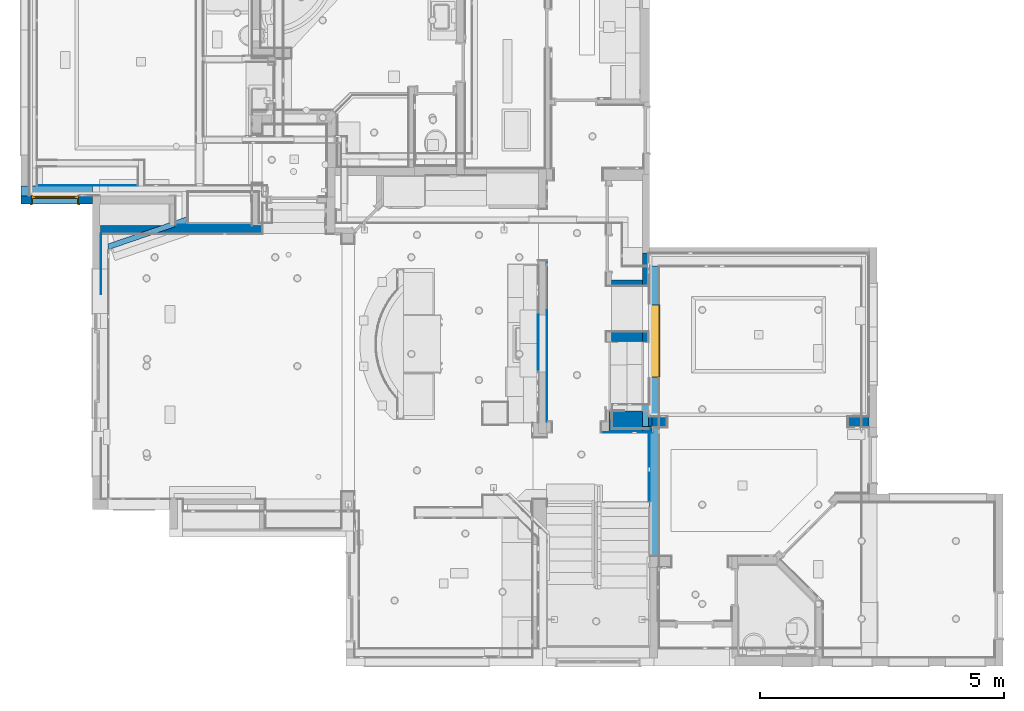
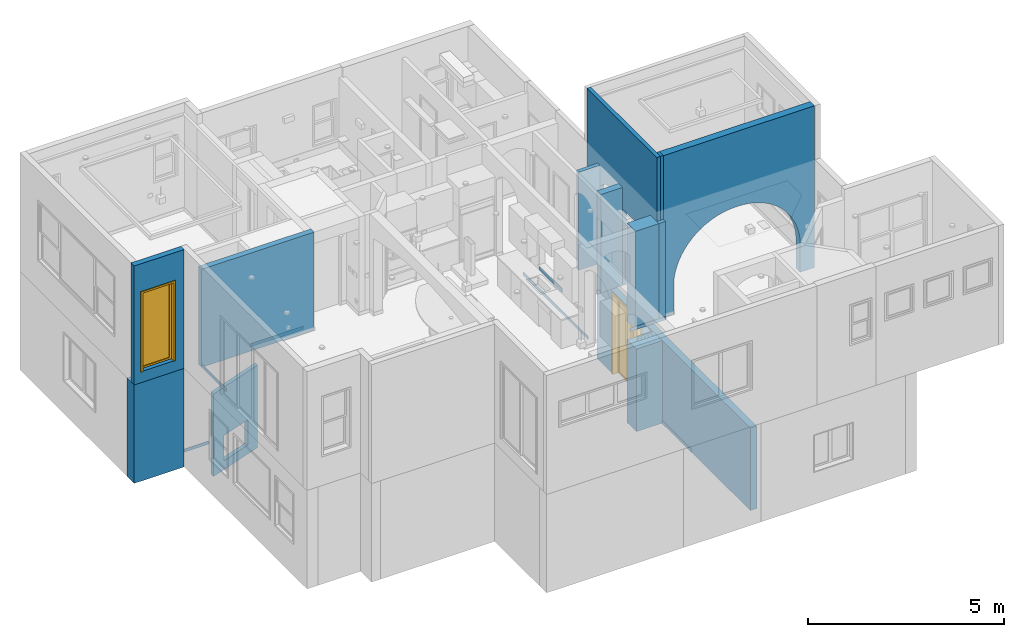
# One storey, part 6 of 60: 20 walls, 2 doors, 6 openings.
"""IFC2X3 building model written with IfcOpenShell, lengths in feet."""

from ifc_helpers import new_model, entity, si_unit, converted_unit, direction, frame, frame_2d, origin, origin_2d_with_axis, place, context, subcontext, project, spatial, polyline, circle_curve, parameter, trimmed, segment, composite_curve, rectangle, outline, extrude, clip, bounded_halfspace, source, transform, mapped, material, material_list, layer, layer_set, layer_usage, type_object, type_shapes, element, fill, save


model = new_model("IFC2X3")

# Units and contexts
model_context = context("Model", 3, precision=0.0001, world=origin(), true_north=direction((6.123031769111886e-17, 1.0)))
plan_context = context("Plan", 3, precision=0.0001, world=origin(), true_north=direction((6.123031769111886e-17, 1.0)))
body_context = subcontext(model_context, "Body", "Model", "MODEL_VIEW")
ifc_project = project(units=[converted_unit("LENGTHUNIT", "FOOT", entity("IfcLengthMeasure", 0.3048), si_unit("LENGTHUNIT", "METRE"), dimensions=[1, 0, 0, 0, 0, 0, 0]), converted_unit("AREAUNIT", "SQUARE FOOT", entity("IfcAreaMeasure", 0.09290304), si_unit("AREAUNIT", "SQUARE_METRE"), dimensions=[2, 0, 0, 0, 0, 0, 0]), converted_unit("PLANEANGLEUNIT", "DEGREE", entity("IfcPlaneAngleMeasure", 0.017453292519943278), si_unit("PLANEANGLEUNIT", "RADIAN"), dimensions=[0, 0, 0, 0, 0, 0, 0])], contexts=[model_context, plan_context])

# Site, building, storey
site_placement = place(None, origin())
site = spatial("IfcSite", under=ifc_project, at=site_placement, Name="Default", CompositionType="ELEMENT")
building_placement = place(site_placement, origin())
building = spatial("IfcBuilding", under=site, at=building_placement, CompositionType="ELEMENT")
storey_placement = place(building_placement, origin())
storey = spatial("IfcBuildingStorey", under=building, at=storey_placement, Name="First floor", CompositionType="ELEMENT", Elevation=0.0)

# Wall, opening, door
ifc_material_1 = material(Name="Default New Material")
ifc_layer_1 = layer(ifc_material_1, 0.5416666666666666)
ifc_layer_set_1 = layer_set([ifc_layer_1], Name="Basic Wall:Wall_6.5\"")
ifc_layer_usage_1 = layer_usage(ifc_layer_set_1, "AXIS2", "NEGATIVE", 0.2708333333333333)
wall_type_1 = type_object("IfcWallType", Name="Basic Wall:Wall_6.5\"", PredefinedType="STANDARD", material=ifc_layer_set_1)
wall_1_placement = place(storey_placement, frame((-17.041666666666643, 31.31249999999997, 9.541666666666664), z_axis=(0.0, 0.0, 1.0), x_axis=(-1.0, 0.0, 0.0)))
wall_1 = element("IfcWallStandardCase", 1, at=wall_1_placement, inside=storey, type_object=wall_type_1, material=ifc_layer_usage_1, Name="Basic Wall:Wall_6.5\"", ObjectType="Basic Wall:Wall_6.5\"", context=body_context, shape_type="SweptSolid", body=[
    extrude(rectangle(XDim=4.812500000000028, YDim=0.5416666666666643, at=frame_2d((2.406250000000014, -8.881784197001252e-16), x_axis=(-1.0, 0.0))), origin(), (0.0, 0.0, 1.0), 12.125),
])
opening_1_placement = place(wall_1_placement, frame((4.104166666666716, 0.2708333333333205, 1.1250000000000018)))
opening_1 = element("IfcOpeningElement", 2, at=opening_1_placement, cuts=wall_1, Name="C_Single Door Glass:3'-0\" X 8'-0\":1", ObjectType="Opening", context=body_context, shape_type="SweptSolid", body=[
    extrude(rectangle(XDim=3.166666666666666, YDim=8.083333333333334, at=frame_2d((4.041666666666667, 1.583333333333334), x_axis=(0.0, 1.0))), frame((0.0, 0.0, 0.0), z_axis=(0.0, -1.0, 0.0), x_axis=(0.0, 0.0, 1.0)), (0.0, 0.0, 1.0), 0.5416666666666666),
])
ifc_material_2 = material(Name="Glass")
ifc_material_list_1 = material_list([ifc_material_2, ifc_material_1])
door_style_1 = type_object("IfcDoorStyle", Name="C_Single Door Glass:3'-0\" X 8'-0\"", ConstructionType="NOTDEFINED", OperationType="SINGLE_SWING_RIGHT", ParameterTakesPrecedence=False, Sizeable=False, material=ifc_material_list_1)
shared_shape_1 = source(origin(), body_context, "Body", "SweptSolid", [
    extrude(rectangle(XDim=2.6666666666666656, YDim=0.04166666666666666, at=frame_2d((0.0, 1.3877787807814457e-17), x_axis=(1.0, 0.0))), frame((1.5833333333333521, 0.08333333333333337, 0.16666666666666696), z_axis=(0.0, 0.0, 1.0), x_axis=(-1.0, 0.0, 0.0)), (0.0, 0.0, 1.0), 7.666666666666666),
    extrude(outline(polyline([(-4.0, -1.4999999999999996), (4.0, -1.4999999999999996), (4.0, 1.4999999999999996), (-4.0, 1.4999999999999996), (-4.0, -1.4999999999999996)]), holes=[polyline([(-3.833333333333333, 1.3333333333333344), (3.833333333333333, 1.3333333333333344), (3.833333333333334, -1.3333333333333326), (-3.833333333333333, -1.3333333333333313), (-3.833333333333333, 1.3333333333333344)])]), frame((1.5833333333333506, 0.16666666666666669, 4.0), z_axis=(0.0, -1.0, 0.0), x_axis=(0.0, 0.0, -1.0)), (0.0, 0.0, 1.0), 0.16666666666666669),
    extrude(outline(polyline([(-3.958333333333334, 1.4999999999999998), (4.041666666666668, 1.4999999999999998), (4.041666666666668, 1.6666666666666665), (-4.125000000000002, 1.6666666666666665), (-4.125000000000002, -1.6666666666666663), (4.041666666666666, -1.6666666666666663), (4.041666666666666, -1.4999999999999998), (-3.958333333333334, -1.4999999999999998), (-3.958333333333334, 1.4999999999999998)])), frame((1.5833333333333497, 0.0, 4.041666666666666), z_axis=(0.0, -1.0, 0.0), x_axis=(0.0, 0.0, -1.0)), (0.0, 0.0, 1.0), 0.0625),
    extrude(outline(polyline([(-3.958333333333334, 1.4999999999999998), (4.041666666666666, 1.4999999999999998), (4.041666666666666, 1.6666666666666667), (-4.125, 1.6666666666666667), (-4.125, -1.6666666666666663), (4.041666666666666, -1.6666666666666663), (4.041666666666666, -1.5000000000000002), (-3.958333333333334, -1.5000000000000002), (-3.958333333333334, 1.4999999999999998)])), frame((1.5833333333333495, 0.6041666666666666, 4.041666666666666), z_axis=(0.0, -1.0, 0.0), x_axis=(0.0, 0.0, -1.0)), (0.0, 0.0, 1.0), 0.0625),
    extrude(outline(polyline([(1.4999999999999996, -4.020833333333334), (1.5833333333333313, -4.020833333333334), (1.5833333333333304, 4.062499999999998), (-1.5833333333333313, 4.0625), (-1.5833333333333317, -4.020833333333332), (-1.5, -4.020833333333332), (-1.5, 3.979166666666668), (1.4999999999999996, 3.979166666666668), (1.4999999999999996, -4.020833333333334)])), frame((1.58333333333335, 0.5416666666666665, 4.020833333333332), z_axis=(0.0, -1.0, 0.0), x_axis=(1.0, 0.0, 0.0)), (0.0, 0.0, 1.0), 0.5416666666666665),
])
type_shapes(door_style_1, [shared_shape_1])
door_1_placement = place(opening_1_placement, frame((-3.1666666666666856, -0.5416666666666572, 0.0)))
door_1 = element("IfcDoor", 3, at=door_1_placement, inside=storey, type_object=door_style_1, material=ifc_material_list_1, Name="C_Single Door Glass:3'-0\" X 8'-0\"", ObjectType="C_Single Door Glass:3'-0\" X 8'-0\"", OverallHeight=8.083333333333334, OverallWidth=3.166666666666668, context=body_context, shape_type="MappedRepresentation", body=[
    mapped(shared_shape_1, transform((0.0, 0.0, 0.0), scale=1.0)),
])
fill(opening_1, door_1)

# Walls
ifc_layer_usage_2 = layer_usage(ifc_layer_set_1, "AXIS2", "NEGATIVE", 0.2708333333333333)
wall_2_placement = place(storey_placement, frame((-16.49999999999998, 29.312499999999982, 10.666666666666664)))
element("IfcWallStandardCase", 4, at=wall_2_placement, inside=storey, type_object=wall_type_1, material=ifc_layer_usage_2, Name="Basic Wall:Wall_6.5\"", ObjectType="Basic Wall:Wall_6.5\"", context=body_context, shape_type="SweptSolid", body=[
    extrude(rectangle(XDim=10.854166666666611, YDim=0.5416666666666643, at=frame_2d((5.4270833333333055, 0.0), x_axis=(-1.0, 0.0))), origin(), (0.0, 0.0, 1.0), 10.0),
])
ifc_layer_2 = layer(ifc_material_1, 0.6666666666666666)
ifc_layer_set_2 = layer_set([ifc_layer_2], Name="Basic Wall:Wall_8\"")
ifc_layer_usage_3 = layer_usage(ifc_layer_set_2, "AXIS2", "NEGATIVE", 0.33333333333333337)
wall_type_2 = type_object("IfcWallType", Name="Basic Wall:Wall_8\"", PredefinedType="STANDARD", material=ifc_layer_set_2)
wall_3_placement = place(storey_placement, frame((17.833333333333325, 22.124654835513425, 10.666666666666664)))
element("IfcWallStandardCase", 5, at=wall_3_placement, inside=storey, type_object=wall_type_2, material=ifc_layer_usage_3, Name="Basic Wall:Wall_8\"", ObjectType="Basic Wall:Wall_8\"", context=body_context, shape_type="SweptSolid", body=[
    extrude(rectangle(XDim=2.0833333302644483, YDim=0.6666666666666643, at=frame_2d((1.0416666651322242, 0.0), x_axis=(-1.0, 0.0))), origin(), (0.0, 0.0, 1.0), 10.0),
])
ifc_layer_usage_4 = layer_usage(ifc_layer_set_2, "AXIS2", "NEGATIVE", 0.33333333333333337)
wall_4_placement = place(storey_placement, frame((20.291666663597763, 16.416321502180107, 10.666666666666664)))
element("IfcWallStandardCase", 6, at=wall_4_placement, inside=storey, type_object=wall_type_2, material=ifc_layer_usage_4, Name="Basic Wall:Wall_8\"", ObjectType="Basic Wall:Wall_8\"", context=body_context, shape_type="SweptSolid", body=[
    extrude(rectangle(XDim=0.2500000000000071, YDim=0.6666666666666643, at=frame_2d((0.12500000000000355, 0.0), x_axis=(-1.0, 0.0))), origin(), (0.0, 0.0, 1.0), 16.5),
])

# Wall, opening
ifc_layer_3 = layer(ifc_material_1, 0.7083333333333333)
ifc_layer_set_3 = layer_set([ifc_layer_3], Name="Basic Wall:Wall_8.5\"")
ifc_layer_usage_5 = layer_usage(ifc_layer_set_3, "AXIS2", "NEGATIVE", 0.35416666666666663)
wall_type_3 = type_object("IfcWallType", Name="Basic Wall:Wall_8.5\"", PredefinedType="STANDARD", material=ifc_layer_set_3)
wall_5_placement = place(storey_placement, frame((20.541666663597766, 16.395833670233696, 10.666666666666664)))
wall_5 = element("IfcWallStandardCase", 7, at=wall_5_placement, inside=storey, type_object=wall_type_3, material=ifc_layer_usage_5, Name="Basic Wall:Wall_8.5\"", ObjectType="Basic Wall:Wall_8.5\"", context=body_context, shape_type="SweptSolid", body=[
    extrude(rectangle(XDim=14.583333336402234, YDim=0.7083333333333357, at=frame_2d((7.291666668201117, -8.049116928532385e-16), x_axis=(-1.0, 0.0))), origin(), (0.0, 0.0, 1.0), 16.499999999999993),
])
opening_2_placement = place(wall_5_placement, frame((-20.541666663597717, -16.39583367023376, -10.666666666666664)))
element("IfcOpeningElement", 8, at=opening_2_placement, cuts=wall_5, Name="Basic Wall:Wall_8.5\"", ObjectType="Opening", context=body_context, shape_type="SweptSolid", body=[
    extrude(outline(composite_curve([segment(polyline([(-0.23333333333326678, -6.083333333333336), (3.099999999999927, -6.083333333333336)]), True, "CONTINUOUS"), segment(polyline([(3.099999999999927, -6.083333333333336), (3.099999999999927, 6.083333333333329)]), True, "CONTINUOUS"), segment(polyline([(3.099999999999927, 6.083333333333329), (-0.23333333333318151, 6.083333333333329)]), True, "CONTINUOUS"), segment(trimmed(circle_curve(frame_2d((0.265763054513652, 0.10412746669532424), x_axis=(0.0, 1.0)), 6.0), [parameter(4.771532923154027)], [parameter(90.99439398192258)], True, "PARAMETER"), True, "CONTINUOUS"), segment(trimmed(circle_curve(frame_2d((0.265763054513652, -0.10412746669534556), x_axis=(0.0, -1.0)), 6.0), [parameter(269.00560601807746)], [parameter(355.2284670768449)], True, "PARAMETER"), True, "CONTINUOUS")], self_intersect=False)), frame((27.625501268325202, 16.041667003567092, 13.766666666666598), z_axis=(0.0, 1.0, 0.0), x_axis=(0.0, 0.0, -1.0)), (0.0, 0.0, 1.0), 0.7083333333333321),
])

# Wall, opening, door
ifc_layer_4 = layer(ifc_material_1, 0.625)
ifc_layer_set_4 = layer_set([ifc_layer_4], Name="Basic Wall:Wall_7.5\"")
ifc_layer_usage_6 = layer_usage(ifc_layer_set_4, "AXIS2", "NEGATIVE", 0.31250000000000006)
wall_type_4 = type_object("IfcWallType", Name="Basic Wall:Wall_7.5\"", PredefinedType="STANDARD", material=ifc_layer_set_4)
wall_6_placement = place(storey_placement, frame((20.687499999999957, 1.2499999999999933, 0.0), z_axis=(0.0, 0.0, 1.0), x_axis=(0.0, 1.0, 0.0)))
wall_6 = element("IfcWallStandardCase", 9, at=wall_6_placement, inside=storey, type_object=wall_type_4, material=ifc_layer_usage_6, Name="Basic Wall:Wall_7.5\"", ObjectType="Basic Wall:Wall_7.5\"", context=body_context, shape_type="SweptSolid", body=[
    extrude(rectangle(XDim=25.625000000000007, YDim=0.625, at=frame_2d((12.812500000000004, -7.216449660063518e-16), x_axis=(1.0, 0.0))), origin(), (0.0, 0.0, 1.0), 8.416666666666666),
])
opening_3_placement = place(wall_6_placement, frame((23.0, 0.3124999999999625, 0.0)))
opening_3 = element("IfcOpeningElement", 10, at=opening_3_placement, cuts=wall_6, Name="C_Double Door Glass:4'-8\" X 8'-2\":1", ObjectType="Opening", context=body_context, shape_type="SweptSolid", body=[
    extrude(rectangle(XDim=8.25, YDim=4.833333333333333, at=frame_2d((4.125, 2.416666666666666), x_axis=(-1.0, 0.0))), frame((0.0, 0.0, 0.0), z_axis=(0.0, -1.0, 0.0), x_axis=(0.0, 0.0, 1.0)), (0.0, 0.0, 1.0), 0.6250000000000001),
])
ifc_material_list_2 = material_list([ifc_material_1, ifc_material_2])
door_style_2 = type_object("IfcDoorStyle", Name="C_Double Door Glass:4'-8\" X 8'-2\"", ConstructionType="NOTDEFINED", OperationType="DOUBLE_DOOR_SINGLE_SWING_OPPOSITE_LEFT", ParameterTakesPrecedence=False, Sizeable=False, material=ifc_material_list_2)
shared_shape_2 = source(origin(), body_context, "Body", "SweptSolid", [
    extrude(rectangle(XDim=0.04166666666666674, YDim=1.9999999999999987, at=origin_2d_with_axis()), frame((1.250000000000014, 0.08333333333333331, 2.7569444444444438), z_axis=(0.0, 0.0, 1.0), x_axis=(0.0, -1.0, 0.0)), (0.0, 0.0, 1.0), 0.04166666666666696),
    extrude(rectangle(XDim=0.04166666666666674, YDim=1.9999999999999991, at=origin_2d_with_axis()), frame((1.2500000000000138, 0.08333333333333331, 5.3680555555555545), z_axis=(0.0, 0.0, 1.0), x_axis=(0.0, -1.0, 0.0)), (0.0, 0.0, 1.0), 0.041666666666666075),
    extrude(rectangle(XDim=0.04166666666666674, YDim=0.04166666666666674, at=frame_2d((0.0, -5.551115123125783e-17), x_axis=(1.0, 0.0))), frame((1.5833333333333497, 0.08333333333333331, 0.16666666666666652), z_axis=(0.0, 0.0, 1.0), x_axis=(0.0, -1.0, 0.0)), (0.0, 0.0, 1.0), 7.833333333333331),
    extrude(rectangle(XDim=0.04166666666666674, YDim=0.04166666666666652, at=frame_2d((0.0, 2.220446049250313e-16), x_axis=(1.0, 0.0))), frame((0.916666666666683, 0.08333333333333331, 0.16666666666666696), z_axis=(0.0, 0.0, 1.0), x_axis=(0.0, -1.0, 0.0)), (0.0, 0.0, 1.0), 7.833333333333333),
    extrude(rectangle(XDim=0.04166666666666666, YDim=1.9999999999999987, at=frame_2d((-1.3877787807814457e-17, 0.0), x_axis=(1.0, 0.0))), frame((1.250000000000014, 0.08333333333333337, 0.16666666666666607), z_axis=(0.0, 0.0, 1.0), x_axis=(0.0, -1.0, 0.0)), (0.0, 0.0, 1.0), 7.833333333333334),
    extrude(outline(polyline([(-1.166666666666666, -4.083333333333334), (1.166666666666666, -4.083333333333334), (1.166666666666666, 4.083333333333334), (-1.166666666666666, 4.083333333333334), (-1.166666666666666, -4.083333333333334)]), holes=[polyline([(1.0, -3.916666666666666), (-1.0, -3.916666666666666), (-1.0, 3.916666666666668), (1.0, 3.916666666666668), (1.0, -3.916666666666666)])]), frame((1.2500000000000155, 0.16666666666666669, 4.083333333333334), z_axis=(0.0, -1.0, 0.0), x_axis=(-1.0, 0.0, 0.0)), (0.0, 0.0, 1.0), 0.16666666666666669),
    extrude(rectangle(XDim=1.9999999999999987, YDim=0.04166666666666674, at=origin_2d_with_axis()), frame((3.5833333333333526, 0.08333333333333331, 2.7569444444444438), z_axis=(0.0, 0.0, 1.0), x_axis=(-1.0, 0.0, 0.0)), (0.0, 0.0, 1.0), 0.04166666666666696),
    extrude(rectangle(XDim=1.9999999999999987, YDim=0.04166666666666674, at=origin_2d_with_axis()), frame((3.5833333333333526, 0.08333333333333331, 5.3680555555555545), z_axis=(0.0, 0.0, 1.0), x_axis=(-1.0, 0.0, 0.0)), (0.0, 0.0, 1.0), 0.041666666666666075),
    extrude(rectangle(XDim=0.04166666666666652, YDim=0.04166666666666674, at=frame_2d((5.551115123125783e-17, 0.0), x_axis=(1.0, 0.0))), frame((3.250000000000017, 0.08333333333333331, 0.16666666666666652), z_axis=(0.0, 0.0, 1.0), x_axis=(-1.0, 0.0, 0.0)), (0.0, 0.0, 1.0), 7.833333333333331),
    extrude(rectangle(XDim=0.04166666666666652, YDim=0.04166666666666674, at=frame_2d((-2.220446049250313e-16, 0.0), x_axis=(1.0, 0.0))), frame((3.916666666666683, 0.08333333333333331, 0.16666666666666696), z_axis=(0.0, 0.0, 1.0), x_axis=(-1.0, 0.0, 0.0)), (0.0, 0.0, 1.0), 7.833333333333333),
    extrude(rectangle(XDim=1.9999999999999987, YDim=0.04166666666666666, at=frame_2d((0.0, -1.3877787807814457e-17), x_axis=(1.0, 0.0))), frame((3.5833333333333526, 0.08333333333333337, 0.16666666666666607), z_axis=(0.0, 0.0, 1.0), x_axis=(-1.0, 0.0, 0.0)), (0.0, 0.0, 1.0), 7.833333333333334),
    extrude(outline(polyline([(-4.083333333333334, -1.166666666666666), (4.083333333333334, -1.166666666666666), (4.083333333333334, 1.166666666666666), (-4.083333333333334, 1.166666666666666), (-4.083333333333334, -1.166666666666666)]), holes=[polyline([(-3.916666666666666, 1.0), (3.916666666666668, 1.0), (3.916666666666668, -1.0), (-3.916666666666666, -1.0), (-3.916666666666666, 1.0)])]), frame((3.583333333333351, 0.16666666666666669, 4.083333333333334), z_axis=(0.0, -1.0, 0.0), x_axis=(0.0, 0.0, -1.0)), (0.0, 0.0, 1.0), 0.16666666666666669),
    extrude(outline(polyline([(-4.041666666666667, 2.333333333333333), (4.125000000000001, 2.333333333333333), (4.125000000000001, 2.4999999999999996), (-4.208333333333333, 2.4999999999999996), (-4.208333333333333, -2.499999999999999), (4.124999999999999, -2.499999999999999), (4.124999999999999, -2.333333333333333), (-4.041666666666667, -2.333333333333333), (-4.041666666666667, 2.333333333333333)])), frame((2.4166666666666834, 0.0, 4.124999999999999), z_axis=(0.0, -1.0, 0.0), x_axis=(0.0, 0.0, -1.0)), (0.0, 0.0, 1.0), 0.0625),
    extrude(outline(polyline([(-4.041666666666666, 2.333333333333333), (4.125, 2.333333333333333), (4.125, 2.5), (-4.208333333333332, 2.5), (-4.208333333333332, -2.499999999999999), (4.125, -2.499999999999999), (4.125, -2.333333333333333), (-4.041666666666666, -2.333333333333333), (-4.041666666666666, 2.333333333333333)])), frame((2.416666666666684, 0.6875000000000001, 4.125), z_axis=(0.0, -1.0, 0.0), x_axis=(0.0, 0.0, -1.0)), (0.0, 0.0, 1.0), 0.0625),
    extrude(outline(polyline([(2.333333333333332, -4.104166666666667), (2.416666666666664, -4.104166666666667), (2.4166666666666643, 4.145833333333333), (-2.416666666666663, 4.145833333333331), (-2.416666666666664, -4.104166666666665), (-2.3333333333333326, -4.104166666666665), (-2.333333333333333, 4.062500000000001), (2.333333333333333, 4.062500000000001), (2.333333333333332, -4.104166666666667)])), frame((2.4166666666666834, 0.625, 4.104166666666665), z_axis=(0.0, -1.0, 0.0), x_axis=(1.0, 0.0, 0.0)), (0.0, 0.0, 1.0), 0.625),
])
type_shapes(door_style_2, [shared_shape_2])
door_2_placement = place(opening_3_placement, frame((-4.833333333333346, -0.6250000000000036, 0.0)))
door_2 = element("IfcDoor", 11, at=door_2_placement, inside=storey, type_object=door_style_2, material=ifc_material_list_2, Name="C_Double Door Glass:4'-8\" X 8'-2\"", ObjectType="C_Double Door Glass:4'-8\" X 8'-2\"", OverallHeight=8.25, OverallWidth=4.833333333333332, context=body_context, shape_type="MappedRepresentation", body=[
    mapped(shared_shape_2, transform((0.0, 0.0, 0.0), scale=1.0)),
])
fill(opening_3, door_2)

# Wall, openings
ifc_layer_5 = layer(ifc_material_1, 0.375)
ifc_layer_set_5 = layer_set([ifc_layer_5], Name="Basic Wall:Wall_4.5\"")
ifc_layer_usage_7 = layer_usage(ifc_layer_set_5, "AXIS2", "POSITIVE", -0.1875)
wall_type_5 = type_object("IfcWallType", Name="Basic Wall:Wall_4.5\"", PredefinedType="STANDARD", material=ifc_layer_set_5)
wall_7_placement = place(storey_placement, frame((20.104166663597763, 16.08298816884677, 10.666666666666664), z_axis=(0.0, 0.0, 1.0), x_axis=(0.0, 1.0, 0.0)))
wall_7 = element("IfcWallStandardCase", 12, at=wall_7_placement, inside=storey, type_object=wall_type_5, material=ifc_layer_usage_7, Name="Basic Wall:Wall_4.5\"", ObjectType="Basic Wall:Wall_4.5\"", context=body_context, shape_type="SweptSolid", body=[
    extrude(rectangle(XDim=11.667011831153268, YDim=0.375, at=frame_2d((5.833505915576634, -2.7755575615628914e-17), x_axis=(-1.0, 0.0))), origin(), (0.0, 0.0, 1.0), 16.499999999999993),
])
opening_4_placement = place(wall_7_placement, frame((-16.082988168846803, 20.104166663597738, -10.666666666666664)))
element("IfcOpeningElement", 13, at=opening_4_placement, cuts=wall_7, Name="Basic Wall:Wall_4.5\"", ObjectType="Opening", context=body_context, shape_type="SweptSolid", body=[
    extrude(rectangle(XDim=7.8333333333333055, YDim=4.6666666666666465, at=frame_2d((-1.7763568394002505e-15, -8.881784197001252e-16), x_axis=(0.0, 1.0))), frame((19.457988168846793, -20.29166666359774, 14.583333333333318), z_axis=(0.0, 1.0, 0.0), x_axis=(1.0, 0.0, 0.0)), (0.0, 0.0, 1.0), 0.375),
])
opening_5_placement = place(wall_7_placement, frame((-16.082988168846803, 20.104166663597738, -10.666666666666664)))
element("IfcOpeningElement", 14, at=opening_5_placement, cuts=wall_7, Name="Basic Wall:Wall_4.5\"", ObjectType="Opening", context=body_context, shape_type="SweptSolid", body=[
    extrude(outline(composite_curve([segment(trimmed(circle_curve(frame_2d((0.0, 2.9072916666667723), x_axis=(1.0, 0.0)), 1.8427083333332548), [parameter(33.21396115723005)], [parameter(146.78603884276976)], True, "PARAMETER"), True, "CONTINUOUS"), segment(polyline([(-1.5416666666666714, 3.9166666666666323), (-1.5416666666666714, -3.9166666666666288)]), True, "CONTINUOUS"), segment(polyline([(-1.5416666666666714, -3.9166666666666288), (1.5416666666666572, -3.9166666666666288)]), True, "CONTINUOUS"), segment(polyline([(1.5416666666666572, -3.9166666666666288), (1.5416666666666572, 3.9166666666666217)]), True, "CONTINUOUS")], self_intersect=False)), frame((23.99965483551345, -20.291666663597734, 14.583333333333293), z_axis=(0.0, 1.0, 0.0), x_axis=(-1.0, 0.0, 0.0)), (0.0, 0.0, 1.0), 0.375),
])

# Wall
ifc_layer_usage_8 = layer_usage(ifc_layer_set_5, "AXIS2", "NEGATIVE", 0.1875)
wall_8_placement = place(storey_placement, frame((17.833333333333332, 25.728821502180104, 10.666666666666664)))
element("IfcWallStandardCase", 15, at=wall_8_placement, inside=storey, type_object=wall_type_5, material=ifc_layer_usage_8, Name="Basic Wall:Wall_4.5\"", ObjectType="Basic Wall:Wall_4.5\"", context=body_context, shape_type="SweptSolid", body=[
    extrude(rectangle(XDim=2.083333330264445, YDim=0.375, at=frame_2d((1.0416666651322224, 0.0), x_axis=(-1.0, 0.0))), origin(), (0.0, 0.0, 1.0), 10.0),
])

# Wall, opening
ifc_layer_usage_9 = layer_usage(ifc_layer_set_5, "AXIS2", "NEGATIVE", 0.1875)
wall_9_placement = place(storey_placement, frame((-10.605714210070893, 30.010887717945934, 0.0), z_axis=(0.0, 0.0, 1.0), x_axis=(-0.9456865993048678, -0.325079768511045, 0.0)))
wall_9 = element("IfcWallStandardCase", 16, at=wall_9_placement, inside=storey, type_object=wall_type_5, material=ifc_layer_usage_9, Name="Basic Wall:Wall_4.5\"", ObjectType="Basic Wall:Wall_4.5\"", context=body_context, shape_type="SweptSolid", body=[
    extrude(outline(polyline([(5.639641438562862, -0.1875000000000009), (5.76854768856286, 0.18749999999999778), (5.7244879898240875, 0.18750000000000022), (0.1289062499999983, 0.1874999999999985), (0.0, -0.18750000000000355), (0.39653728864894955, -0.18750000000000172), (5.639641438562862, -0.1875000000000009)])), origin(), (0.0, 0.0, 1.0), 8.416666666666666),
])
opening_6_placement = place(wall_9_placement, frame((-0.2737493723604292, 31.828597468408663, 0.0)))
element("IfcOpeningElement", 17, at=opening_6_placement, cuts=wall_9, Name="Basic Wall:Wall_4.5\"", ObjectType="Opening", context=body_context, shape_type="SweptSolid", body=[
    extrude(rectangle(XDim=2.5625, YDim=3.041666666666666, at=frame_2d((7.771561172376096e-16, 0.0), x_axis=(0.0, 1.0))), frame((3.1734889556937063, -32.711930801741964, 2.197916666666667), z_axis=(0.0, 1.0, 0.0), x_axis=(-1.0, 0.0, 0.0)), (0.0, 0.0, 1.0), 1.070833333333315),
])

# Walls
ifc_layer_usage_10 = layer_usage(ifc_layer_set_5, "AXIS2", "POSITIVE", -0.1875)
wall_10_placement = place(storey_placement, frame((20.54166666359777, 15.895488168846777, 10.666666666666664), z_axis=(0.0, 0.0, 1.0), x_axis=(-1.0, 0.0, 0.0)))
element("IfcWallStandardCase", 18, at=wall_10_placement, inside=storey, type_object=wall_type_5, material=ifc_layer_usage_10, Name="Basic Wall:Wall_4.5\"", ObjectType="Basic Wall:Wall_4.5\"", context=body_context, shape_type="SweptSolid", body=[
    extrude(rectangle(XDim=0.6250000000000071, YDim=0.37499999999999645, at=frame_2d((0.31250000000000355, 8.881784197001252e-16), x_axis=(-1.0, 0.0))), origin(), (0.0, 0.0, 1.0), 10.0),
])
ifc_layer_6 = layer(ifc_material_1, 1.4166666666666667)
ifc_layer_set_6 = layer_set([ifc_layer_6], Name="Basic Wall:Wall_17\"")
ifc_layer_usage_11 = layer_usage(ifc_layer_set_6, "AXIS2", "POSITIVE", -0.7083333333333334)
wall_type_6 = type_object("IfcWallType", Name="Basic Wall:Wall_17\"", PredefinedType="STANDARD", material=ifc_layer_set_6)
wall_11_placement = place(storey_placement, frame((19.916666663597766, 16.416321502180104, 10.666666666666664), z_axis=(0.0, 0.0, 1.0), x_axis=(-1.0, 0.0, 0.0)))
element("IfcWallStandardCase", 19, at=wall_11_placement, inside=storey, type_object=wall_type_6, material=ifc_layer_usage_11, Name="Basic Wall:Wall_17\"", ObjectType="Basic Wall:Wall_17\"", context=body_context, shape_type="SweptSolid", body=[
    extrude(rectangle(XDim=2.270833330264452, YDim=1.4166666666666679, at=frame_2d((1.135416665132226, 2.1094237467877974e-15), x_axis=(-1.0, 0.0))), origin(), (0.0, 0.0, 1.0), 10.0),
])
ifc_layer_7 = layer(ifc_material_1, 1.2083333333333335)
ifc_layer_set_7 = layer_set([ifc_layer_7], Name="Basic Wall:Wall_1' 2 1/2\"")
ifc_layer_usage_12 = layer_usage(ifc_layer_set_7, "AXIS2", "NEGATIVE", 0.6041666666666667)
wall_type_7 = type_object("IfcWallType", Name="Basic Wall:Wall_1' 2 1/2\"", PredefinedType="STANDARD", material=ifc_layer_set_7)
wall_12_placement = place(storey_placement, frame((-17.041666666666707, 31.645833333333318, -0.5), z_axis=(0.0, 0.0, 1.0), x_axis=(-1.0, 0.0, 0.0)))
element("IfcWallStandardCase", 20, at=wall_12_placement, inside=storey, type_object=wall_type_7, material=ifc_layer_usage_12, Name="Basic Wall:Wall_1' 2 1/2\"", ObjectType="Basic Wall:Wall_1' 2 1/2\"", context=body_context, shape_type="SweptSolid", body=[
    extrude(rectangle(XDim=4.812500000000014, YDim=1.2083333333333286, at=frame_2d((2.4062500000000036, 3.608224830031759e-15), x_axis=(-1.0, 0.0))), origin(), (0.0, 0.0, 1.0), 10.041666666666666),
])
ifc_layer_8 = layer(ifc_material_1, 1.5833333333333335)
ifc_layer_set_8 = layer_set([ifc_layer_8], Name="Basic Wall:Wall_1'7\"")
ifc_layer_usage_13 = layer_usage(ifc_layer_set_8, "AXIS2", "NEGATIVE", 0.7916666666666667)
wall_type_8 = type_object("IfcWallType", Name="Basic Wall:Wall_1'7\"", PredefinedType="STANDARD", material=ifc_layer_set_8)
wall_13_placement = place(storey_placement, frame((17.874999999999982, 16.749999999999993, 0.0)))
element("IfcWallStandardCase", 21, at=wall_13_placement, inside=storey, type_object=wall_type_8, material=ifc_layer_usage_13, Name="Basic Wall:Wall_1'7\"", ObjectType="Basic Wall:Wall_1'7\"", context=body_context, shape_type="SweptSolid", body=[
    extrude(rectangle(XDim=2.5000000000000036, YDim=1.583333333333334, at=frame_2d((1.2500000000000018, 8.881784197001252e-16), x_axis=(-1.0, 0.0))), origin(), (0.0, 0.0, 1.0), 8.416666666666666),
])
ifc_layer_9 = layer(ifc_material_1, 0.041666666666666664)
ifc_layer_set_9 = layer_set([ifc_layer_9], Name="Basic Wall:Wall Border_T1")
ifc_layer_usage_14 = layer_usage(ifc_layer_set_9, "AXIS2", "POSITIVE", -0.020833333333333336)
wall_type_9 = type_object("IfcWallType", Name="Basic Wall:Wall Border_T1", PredefinedType="STANDARD", material=ifc_layer_set_9)
wall_14_placement = place(storey_placement, frame((20.35416666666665, 15.958333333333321, 0.0), z_axis=(0.0, 0.0, 1.0), x_axis=(0.0, -1.0, 0.0)))
element("IfcWallStandardCase", 22, at=wall_14_placement, inside=storey, type_object=wall_type_9, material=ifc_layer_usage_14, Name="Basic Wall:Wall Border_T1", ObjectType="Basic Wall:Wall Border_T1", context=body_context, shape_type="SweptSolid", body=[
    extrude(rectangle(XDim=4.9166666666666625, YDim=0.0416666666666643, at=frame_2d((2.4583333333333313, -2.949029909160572e-17), x_axis=(-1.0, 0.0))), origin(), (0.0, 0.0, 1.0), 0.3333333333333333),
])
ifc_layer_usage_15 = layer_usage(ifc_layer_set_9, "AXIS2", "NEGATIVE", 0.020833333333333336)
wall_15_placement = place(storey_placement, frame((-20.75000000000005, 32.27083333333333, 0.0)))
element("IfcWallStandardCase", 23, at=wall_15_placement, inside=storey, type_object=wall_type_9, material=ifc_layer_usage_15, Name="Basic Wall:Wall Border_T1", ObjectType="Basic Wall:Wall Border_T1", context=body_context, shape_type="Clipping", body=[
    clip(extrude(rectangle(XDim=6.791666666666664, YDim=0.041666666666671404, at=frame_2d((3.395833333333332, -6.418476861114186e-17), x_axis=(-1.0, 0.0))), origin(), (0.0, 0.0, 1.0), 0.3333333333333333), bounded_halfspace(frame((0.0, -0.020833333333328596, 0.0), z_axis=(1.0, 0.0, 0.0), x_axis=(0.0, 1.0, 0.0)), True, frame((0.0, -0.020833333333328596, 0.0), z_axis=(1.0, 0.0, 0.0), x_axis=(0.0, 1.0, 0.0)), polyline([(0.0, 0.0), (0.0416666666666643, 0.0), (0.0416666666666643, 0.3333333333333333), (0.0, 0.3333333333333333), (0.0, 0.0)]))),
])
ifc_layer_usage_16 = layer_usage(ifc_layer_set_9, "AXIS2", "NEGATIVE", 0.020833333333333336)
wall_16_placement = place(storey_placement, frame((13.479166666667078, 27.207988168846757, 10.666666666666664), z_axis=(0.0, 0.0, 1.0), x_axis=(0.0, -1.0, 0.0)))
element("IfcWallStandardCase", 24, at=wall_16_placement, inside=storey, type_object=wall_type_9, material=ifc_layer_usage_16, Name="Basic Wall:Wall Border_T1", ObjectType="Basic Wall:Wall Border_T1", context=body_context, shape_type="SweptSolid", body=[
    extrude(rectangle(XDim=10.791666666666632, YDim=0.04166666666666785, at=frame_2d((5.395833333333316, -1.7520707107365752e-16), x_axis=(-1.0, 0.0))), origin(), (0.0, 0.0, 1.0), 0.3333333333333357),
])
ifc_layer_usage_17 = layer_usage(ifc_layer_set_9, "AXIS2", "NEGATIVE", 0.020833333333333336)
wall_17_placement = place(storey_placement, frame((-6.354166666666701, 29.60416666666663, 10.666666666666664), z_axis=(0.0, 0.0, 1.0), x_axis=(-1.0, 0.0, 0.0)))
element("IfcWallStandardCase", 25, at=wall_17_placement, inside=storey, type_object=wall_type_9, material=ifc_layer_usage_17, Name="Basic Wall:Wall Border_T1", ObjectType="Basic Wall:Wall Border_T1", context=body_context, shape_type="SweptSolid", body=[
    extrude(rectangle(XDim=5.12499999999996, YDim=0.0416666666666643, at=frame_2d((2.56249999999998, 0.0), x_axis=(-1.0, 0.0))), origin(), (0.0, 0.0, 1.0), 0.3333333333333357),
])
ifc_layer_usage_18 = layer_usage(ifc_layer_set_9, "AXIS2", "POSITIVE", -0.020833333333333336)
wall_18_placement = place(storey_placement, frame((17.12500000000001, 15.687154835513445, 10.666666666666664)))
element("IfcWallStandardCase", 26, at=wall_18_placement, inside=storey, type_object=wall_type_9, material=ifc_layer_usage_18, Name="Basic Wall:Wall Border_T1", ObjectType="Basic Wall:Wall Border_T1", context=body_context, shape_type="SweptSolid", body=[
    extrude(rectangle(XDim=3.458333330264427, YDim=0.04166666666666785, at=frame_2d((1.7291666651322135, 6.418476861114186e-17), x_axis=(-1.0, 0.0))), origin(), (0.0, 0.0, 1.0), 0.3333333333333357),
])
ifc_layer_usage_19 = layer_usage(ifc_layer_set_9, "AXIS2", "POSITIVE", -0.020833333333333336)
wall_19_placement = place(storey_placement, frame((-16.479166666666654, 24.95833333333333, 10.666666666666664), z_axis=(0.0, 0.0, 1.0), x_axis=(0.0, 1.0, 0.0)))
element("IfcWallStandardCase", 27, at=wall_19_placement, inside=storey, type_object=wall_type_9, material=ifc_layer_usage_19, Name="Basic Wall:Wall Border_T1", ObjectType="Basic Wall:Wall Border_T1", context=body_context, shape_type="SweptSolid", body=[
    extrude(rectangle(XDim=4.083333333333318, YDim=0.0416666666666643, at=frame_2d((2.041666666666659, -2.203098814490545e-16), x_axis=(-1.0, 0.0))), origin(), (0.0, 0.0, 1.0), 0.3333333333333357),
])
ifc_layer_usage_20 = layer_usage(ifc_layer_set_9, "AXIS2", "NEGATIVE", 0.020833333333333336)
wall_20_placement = place(storey_placement, frame((12.895833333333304, 23.582988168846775, 13.666666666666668), z_axis=(0.0, 0.0, 1.0), x_axis=(0.0, -1.0, 0.0)))
element("IfcWallStandardCase", 28, at=wall_20_placement, inside=storey, type_object=wall_type_9, material=ifc_layer_usage_20, Name="Basic Wall:Wall Border_T1", ObjectType="Basic Wall:Wall Border_T1", context=body_context, shape_type="SweptSolid", body=[
    extrude(rectangle(XDim=3.8333333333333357, YDim=0.04166666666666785, at=frame_2d((1.9166666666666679, 0.0), x_axis=(-1.0, 0.0))), origin(), (0.0, 0.0, 1.0), 0.4166666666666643),
])

save(model, "model.ifc")
